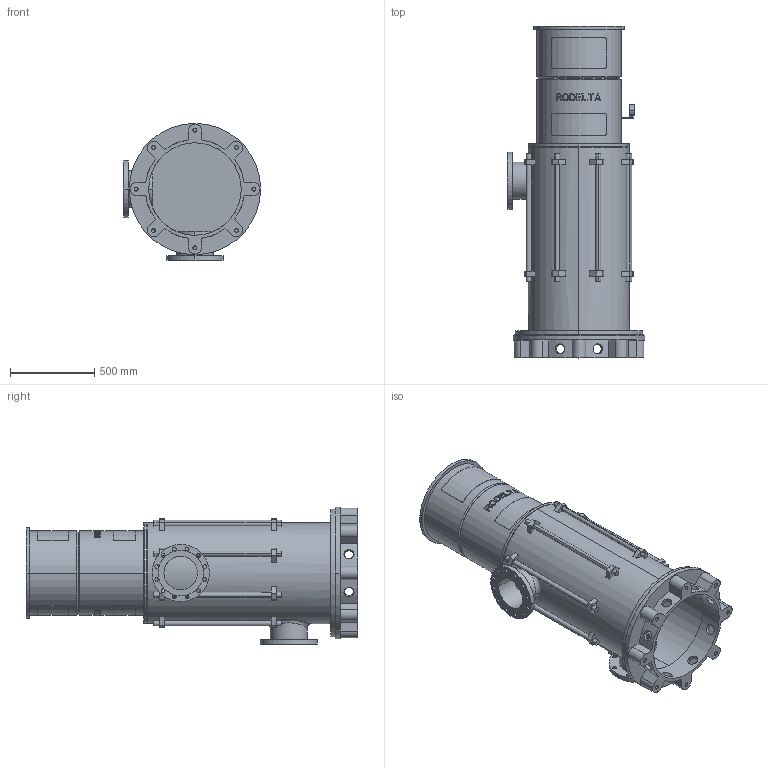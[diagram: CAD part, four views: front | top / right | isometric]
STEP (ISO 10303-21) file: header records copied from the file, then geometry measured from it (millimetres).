
FILE_DESCRIPTION((''),'2;1');
FILE_NAME('LS8_2TR_0GR','2025-10-17T12:57:40',('Lyritlocal'),(''),'CREO PARAMETRIC BY PTC INC, 2022014','CREO PARAMETRIC BY PTC INC, 2022014','');
FILE_SCHEMA(('CONFIG_CONTROL_DESIGN'));
Length unit declared in the file: millimetre
Products named in the file (1): LS8_2TR_0GR
Bounding box: 815 x 1972 x 815 mm (x, y, z)
Volume: 70966696.6 mm3; surface area: 9758256.9 mm2
Topology: 3 solids, 11 shells, 723 faces, 1880 edges, 1246 vertices
Faces by surface type: plane 440, cylinder 267, cone 12, bspline 4
Entity records: 23702 total; most frequent: CARTESIAN_POINT 6013, ORIENTED_EDGE 3728, DIRECTION 3490, EDGE_CURVE 1880, AXIS2_PLACEMENT_3D 1302, VERTEX_POINT 1246, VECTOR 886, LINE 886
